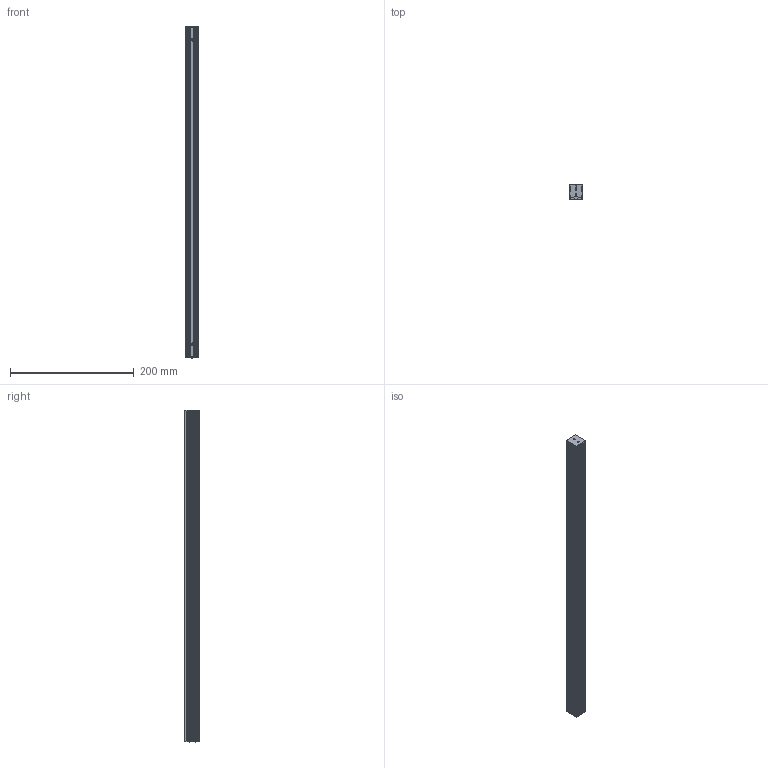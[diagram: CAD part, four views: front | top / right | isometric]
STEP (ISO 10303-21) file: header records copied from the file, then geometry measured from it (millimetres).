
FILE_DESCRIPTION((''),'2;1');
FILE_NAME('DSL-111-22','2020-03-23T',('ASUS'),(''),'PRO/ENGINEER BY PARAMETRIC TECHNOLOGY CORPORATION, 2008380','PRO/ENGINEER BY PARAMETRIC TECHNOLOGY CORPORATION, 2008380','');
FILE_SCHEMA(('CONFIG_CONTROL_DESIGN'));
Length unit declared in the file: millimetre
Products named in the file (1): DSL-111-22
Bounding box: 22 x 24.02 x 537 mm (x, y, z)
Volume: 247499.1 mm3; surface area: 94837.5 mm2
Topology: 1 solids, 5 shells, 279 faces, 712 edges, 464 vertices
Faces by surface type: plane 173, cylinder 86, cone 20
Entity records: 8497 total; most frequent: CARTESIAN_POINT 1604, DIRECTION 1420, ORIENTED_EDGE 1392, EDGE_CURVE 704, VECTOR 508, LINE 508, VERTEX_POINT 464, AXIS2_PLACEMENT_3D 456
